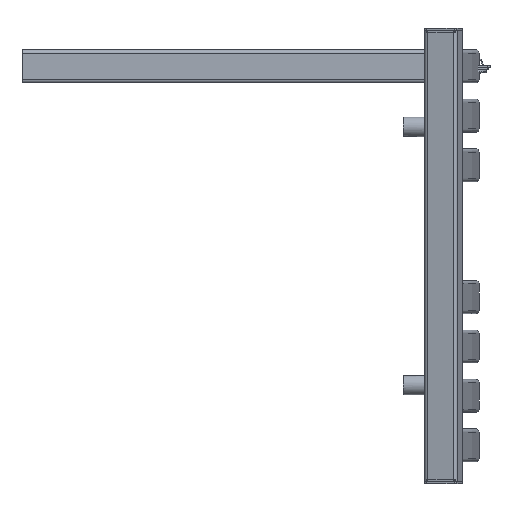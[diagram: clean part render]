
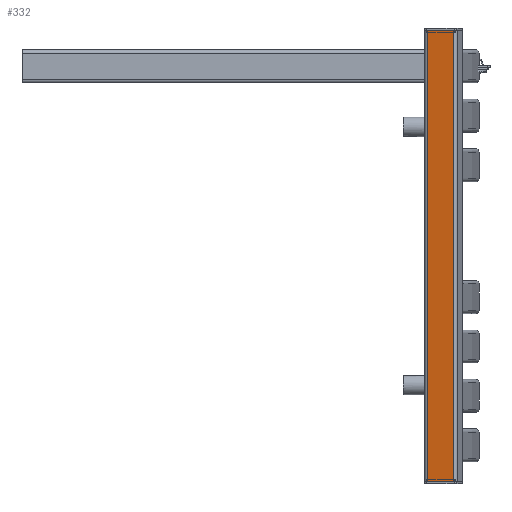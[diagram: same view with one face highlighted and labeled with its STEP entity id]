
A CAD part, left-side view. The second image highlights one B-rep face of the part: STEP entity #332.
In plain terms, the highlighted planar face has unit normal (-0.979, 0.205, 0) as drawn and (0, 0, -1) by its records, which use the part's own axes.
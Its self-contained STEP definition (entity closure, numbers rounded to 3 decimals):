
#332 = ADVANCED_FACE( '', ( #717 ), #718, .T. );
#717 = FACE_OUTER_BOUND( '', #1159, .T. );
#718 = PLANE( '', #1160 );
#1159 = EDGE_LOOP( '', ( #2092, #2093, #2094, #2095 ) );
#1160 = AXIS2_PLACEMENT_3D( '', #2096, #2097, #2098 );
#2092 = ORIENTED_EDGE( '', *, *, #2612, .F. );
#2093 = ORIENTED_EDGE( '', *, *, #2758, .T. );
#2094 = ORIENTED_EDGE( '', *, *, #2850, .T. );
#2095 = ORIENTED_EDGE( '', *, *, #2851, .T. );
#2096 = CARTESIAN_POINT( '', ( -15., 411., -15. ) );
#2097 = DIRECTION( '', ( 0., 0., -1. ) );
#2098 = DIRECTION( '', ( -1., 0., 0. ) );
#2612 = EDGE_CURVE( '', #3160, #3162, #3163, .T. );
#2758 = EDGE_CURVE( '', #3160, #3388, #3391, .F. );
#2850 = EDGE_CURVE( '', #3388, #3510, #3511, .T. );
#2851 = EDGE_CURVE( '', #3510, #3162, #3512, .T. );
#3160 = VERTEX_POINT( '', #3898 );
#3162 = VERTEX_POINT( '', #3900 );
#3163 = LINE( '', #3901, #3902 );
#3388 = VERTEX_POINT( '', #4197 );
#3391 = LINE( '', #4200, #4201 );
#3510 = VERTEX_POINT( '', #4351 );
#3511 = LINE( '', #4352, #4353 );
#3512 = LINE( '', #4354, #4355 );
#3898 = CARTESIAN_POINT( '', ( -12., 0., -15. ) );
#3900 = CARTESIAN_POINT( '', ( 12., 0., -15. ) );
#3901 = CARTESIAN_POINT( '', ( -15., 0., -15. ) );
#3902 = VECTOR( '', #4662, 1000. );
#4197 = CARTESIAN_POINT( '', ( -12., 411., -15. ) );
#4200 = CARTESIAN_POINT( '', ( -12., 411., -15. ) );
#4201 = VECTOR( '', #4874, 1000. );
#4351 = CARTESIAN_POINT( '', ( 12., 411., -15. ) );
#4352 = CARTESIAN_POINT( '', ( -15., 411., -15. ) );
#4353 = VECTOR( '', #4987, 1000. );
#4354 = CARTESIAN_POINT( '', ( 12., 411., -15. ) );
#4355 = VECTOR( '', #4988, 1000. );
#4662 = DIRECTION( '', ( 1., 0., 0. ) );
#4874 = DIRECTION( '', ( 0., -1., 0. ) );
#4987 = DIRECTION( '', ( 1., 0., 0. ) );
#4988 = DIRECTION( '', ( 0., -1., 0. ) );
